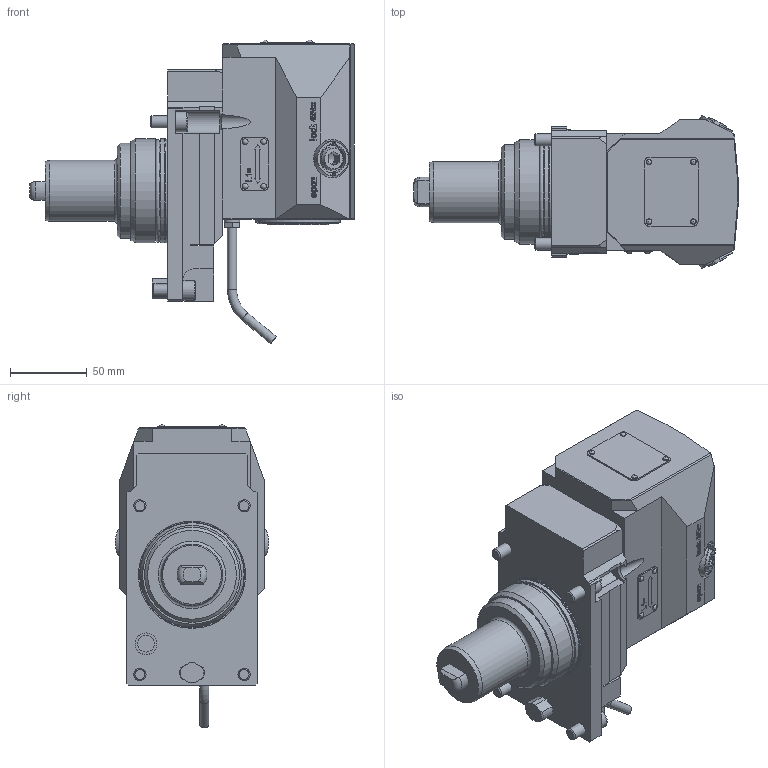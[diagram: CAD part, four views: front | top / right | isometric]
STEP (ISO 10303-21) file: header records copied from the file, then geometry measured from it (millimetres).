
FILE_DESCRIPTION(/* description */ (''),/* implementation_level */ '2;1');
FILE_NAME(/* name */ '201131',/* time_stamp */ '2024-02-26T13:41:46+01:00',/* author */ (''),/* organization */ (''),/* preprocessor_version */ 'ST-DEVELOPER v16.5',/* originating_system */ 'HiCAD 2017 2201.0 Build 268',/* authorisation */ '');
FILE_SCHEMA (('AUTOMOTIVE_DESIGN { 1 0 10303 214 1 1 1 1 }'));
Products named in the file (19): Root; Teil; Lasermarkierungen; TRANSLATIONSTEIL_5; TRANSLATIONSTEIL_0; TRANSLATIONSTEIL_2; TRANSLATIONSTEIL_1; Leeres Teil; TRANSLATIONSTEIL_3; TRANSLATIONSTEIL_4
Assembly tree (18 placements, depth 4):
  Root
    Teil
      Lasermarkierungen
        TRANSLATIONSTEIL_5
        TRANSLATIONSTEIL_0
        TRANSLATIONSTEIL_2
        TRANSLATIONSTEIL_1
      Lasermarkierungen
        TRANSLATIONSTEIL_0
        TRANSLATIONSTEIL_2
        TRANSLATIONSTEIL_1
        TRANSLATIONSTEIL_5
      Leeres Teil
        TRANSLATIONSTEIL_2
        TRANSLATIONSTEIL_2
        TRANSLATIONSTEIL_3
        TRANSLATIONSTEIL_3
        TRANSLATIONSTEIL_4
        TRANSLATIONSTEIL_4
Bounding box: 211.75 x 100.03 x 198.15 mm (x, y, z)
Volume: 1358053.8 mm3; surface area: 113831.8 mm2
Topology: 49 solids, 58 shells, 1218 faces, 3061 edges, 2008 vertices
Faces by surface type: plane 729, bspline 166, cylinder 137, torus 99, cone 79, sphere 8
Full cylindrical faces by diameter (mm): 1 x2, 2 x8, 2.181 x2, 2.2 x8, 4 x2, 6 x2, 8 x4, 8.1 x2, 10 x1, 10.82 x1, 13 x4, 14.18 x1, 14.27 x1, 15 x2, 16.1 x1, 17.8 x2, 18 x2, 19.2 x1, 21 x1, 22.5 x2, 22.7 x1, 25 x2, 25.1 x1, 25.2 x1, 31.6 x1, 40 x2, 55 x1, 62 x1, 63.8 x2, 67.6 x1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
Entity records: 77984 total; most frequent: CARTESIAN_POINT 18953, PRESENTATION_STYLE_ASSIGNMENT 6283, OVER_RIDING_STYLED_ITEM 6234, COLOUR_RGB 5818, DRAUGHTING_PRE_DEFINED_CURVE_FONT 5810, CURVE_STYLE 5810, ORIENTED_EDGE 5810, DIRECTION 5119
